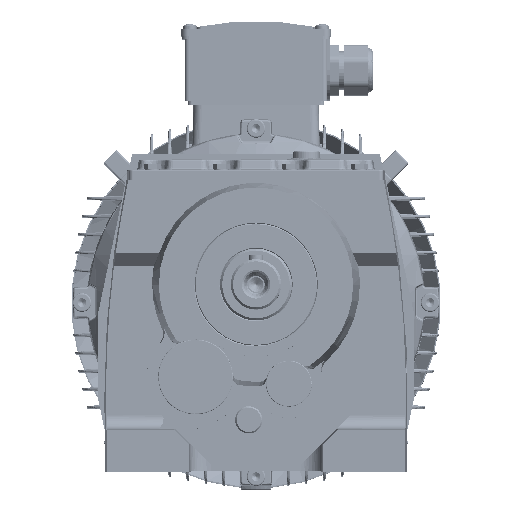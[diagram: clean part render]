
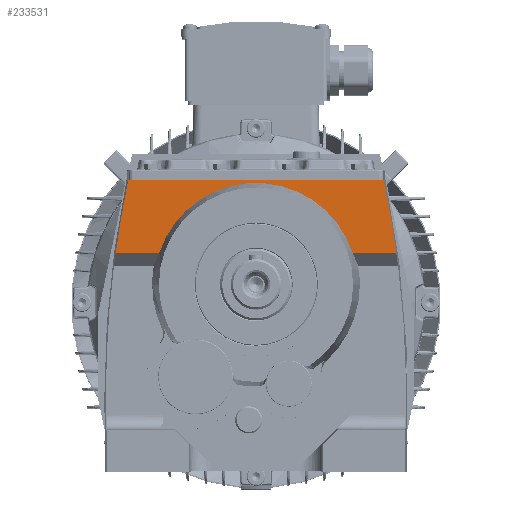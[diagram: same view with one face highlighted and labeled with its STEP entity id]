
A CAD part, top view. The second image highlights one B-rep face of the part: STEP entity #233531.
In plain terms, the highlighted planar face has unit normal (0, 0, 1).
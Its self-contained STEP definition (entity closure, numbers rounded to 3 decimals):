
#24234 = EDGE_CURVE ( 'NONE', #302903, #302718, #306092, .T. ) ;
#48097 = CARTESIAN_POINT ( 'NONE',  ( 0., 0., 161. ) ) ;
#48109 = DIRECTION ( 'NONE',  ( 0., 0., -1. ) ) ;
#48110 = DIRECTION ( 'NONE',  ( -1., 0., 0. ) ) ;
#61296 = AXIS2_PLACEMENT_3D ( 'NONE', #48097, #48109, #48110 ) ;
#107788 = CIRCLE ( 'NONE', #221368, 738.735 ) ;
#107800 = CIRCLE ( 'NONE', #221364, 738.735 ) ;
#107858 = VECTOR ( 'NONE', #238303, 1000. ) ;
#107867 = LINE ( 'NONE', #238320, #107858 ) ;
#111224 = EDGE_LOOP ( 'NONE', ( #128050, #128051, #128060, #128037, #128056, #128152 ) ) ;
#128037 = ORIENTED_EDGE ( 'NONE', *, *, #163312, .F. ) ;
#128050 = ORIENTED_EDGE ( 'NONE', *, *, #24234, .T. ) ;
#128051 = ORIENTED_EDGE ( 'NONE', *, *, #162730, .T. ) ;
#128056 = ORIENTED_EDGE ( 'NONE', *, *, #163216, .F. ) ;
#128060 = ORIENTED_EDGE ( 'NONE', *, *, #163276, .F. ) ;
#128152 = ORIENTED_EDGE ( 'NONE', *, *, #162760, .T. ) ;
#162730 = EDGE_CURVE ( 'NONE', #302718, #297242, #298134, .T. ) ;
#162760 = EDGE_CURVE ( 'NONE', #297768, #302903, #298141, .T. ) ;
#163216 = EDGE_CURVE ( 'NONE', #297768, #298142, #107788, .T. ) ;
#163276 = EDGE_CURVE ( 'NONE', #298084, #297242, #107800, .T. ) ;
#163312 = EDGE_CURVE ( 'NONE', #298142, #298084, #107867, .T. ) ;
#221364 = AXIS2_PLACEMENT_3D ( 'NONE', #238285, #238315, #238322 ) ;
#221368 = AXIS2_PLACEMENT_3D ( 'NONE', #238239, #238228, #238256 ) ;
#233531 = ADVANCED_FACE ( 'NONE', ( #293871 ), #288643, .T. ) ;
#233932 = CARTESIAN_POINT ( 'NONE',  ( -634.59, 22.318, 161. ) ) ;
#234050 = DIRECTION ( 'NONE',  ( 1., 0., 0. ) ) ;
#234099 = CARTESIAN_POINT ( 'NONE',  ( -634.59, 22.318, 161. ) ) ;
#234102 = DIRECTION ( 'NONE',  ( 1., 0., 0. ) ) ;
#238228 = DIRECTION ( 'NONE',  ( 0., 0., -1. ) ) ;
#238239 = CARTESIAN_POINT ( 'NONE',  ( 634.59, -77.374, 161. ) ) ;
#238256 = DIRECTION ( 'NONE',  ( -1., 0., 0. ) ) ;
#238285 = CARTESIAN_POINT ( 'NONE',  ( -634.59, -77.374, 161. ) ) ;
#238303 = DIRECTION ( 'NONE',  ( 1., 0., 0. ) ) ;
#238315 = DIRECTION ( 'NONE',  ( 0., 0., -1. ) ) ;
#238320 = CARTESIAN_POINT ( 'NONE',  ( 125., 73., 161. ) ) ;
#238322 = DIRECTION ( 'NONE',  ( -1., 0., 0. ) ) ;
#258413 = CARTESIAN_POINT ( 'NONE',  ( 97.387, 22.318, 161. ) ) ;
#258787 = CARTESIAN_POINT ( 'NONE',  ( -97.387, 22.318, 161. ) ) ;
#259081 = CARTESIAN_POINT ( 'NONE',  ( 88.678, 73., 161. ) ) ;
#259128 = CARTESIAN_POINT ( 'NONE',  ( -88.678, 73., 161. ) ) ;
#277015 = AXIS2_PLACEMENT_3D ( 'NONE', #288649, #288624, #288678 ) ;
#283783 = CARTESIAN_POINT ( 'NONE',  ( 67.134, 22.318, 161. ) ) ;
#283811 = CARTESIAN_POINT ( 'NONE',  ( -67.134, 22.318, 161. ) ) ;
#288624 = DIRECTION ( 'NONE',  ( 0., 0., 1. ) ) ;
#288643 = PLANE ( 'NONE',  #277015 ) ;
#288649 = CARTESIAN_POINT ( 'NONE',  ( -634.59, -77.374, 161. ) ) ;
#288678 = DIRECTION ( 'NONE',  ( 1., 0., 0. ) ) ;
#293871 = FACE_OUTER_BOUND ( 'NONE', #111224, .T. ) ;
#297242 = VERTEX_POINT ( 'NONE', #258413 ) ;
#297768 = VERTEX_POINT ( 'NONE', #258787 ) ;
#298084 = VERTEX_POINT ( 'NONE', #259081 ) ;
#298111 = VECTOR ( 'NONE', #234102, 1000. ) ;
#298134 = LINE ( 'NONE', #233932, #298171 ) ;
#298141 = LINE ( 'NONE', #234099, #298111 ) ;
#298142 = VERTEX_POINT ( 'NONE', #259128 ) ;
#298171 = VECTOR ( 'NONE', #234050, 1000. ) ;
#302718 = VERTEX_POINT ( 'NONE', #283783 ) ;
#302903 = VERTEX_POINT ( 'NONE', #283811 ) ;
#306092 = CIRCLE ( 'NONE', #61296, 70.747 ) ;
